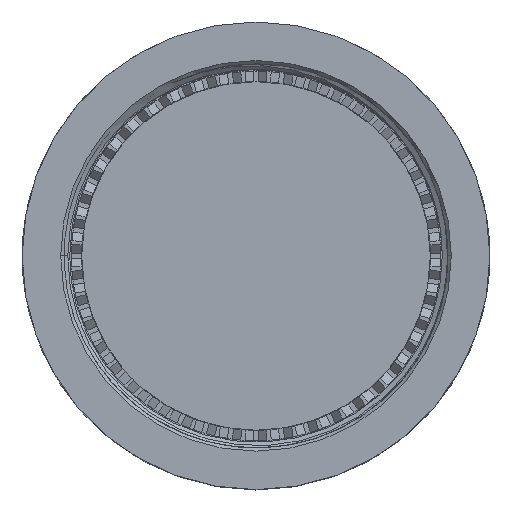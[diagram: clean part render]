
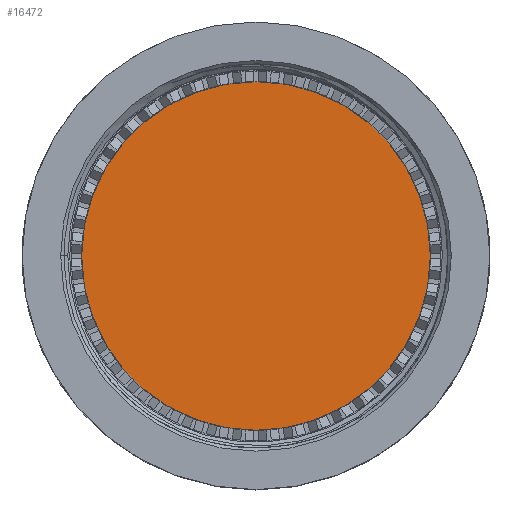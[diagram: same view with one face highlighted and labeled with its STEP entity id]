
A CAD part, top view. The second image highlights one B-rep face of the part: STEP entity #16472.
In plain terms, the highlighted planar face has unit normal (0, 0, 1).
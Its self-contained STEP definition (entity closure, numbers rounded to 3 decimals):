
#1245 = ORIENTED_EDGE ( 'NONE', *, *, #16012, .T. ) ;
#3713 = EDGE_CURVE ( 'NONE', #10050, #7559, #8463, .T. ) ;
#4854 = DIRECTION ( 'NONE',  ( -1., 0., 0. ) ) ;
#5086 = CARTESIAN_POINT ( 'NONE',  ( 16.726, 0., -1.927 ) ) ;
#6254 = CARTESIAN_POINT ( 'NONE',  ( 0., 0., -1.927 ) ) ;
#7556 = CIRCLE ( 'NONE', #15638, 16.726 ) ;
#7559 = VERTEX_POINT ( 'NONE', #5086 ) ;
#7717 = PLANE ( 'NONE',  #8118 ) ;
#8118 = AXIS2_PLACEMENT_3D ( 'NONE', #16997, #9265, #12977 ) ;
#8463 = CIRCLE ( 'NONE', #11816, 16.726 ) ;
#8565 = CARTESIAN_POINT ( 'NONE',  ( 0., 0., -1.927 ) ) ;
#9265 = DIRECTION ( 'NONE',  ( 0., 0., -1. ) ) ;
#10050 = VERTEX_POINT ( 'NONE', #11935 ) ;
#11185 = DIRECTION ( 'NONE',  ( 0., 0., 1. ) ) ;
#11816 = AXIS2_PLACEMENT_3D ( 'NONE', #8565, #11185, #16547 ) ;
#11935 = CARTESIAN_POINT ( 'NONE',  ( -16.726, 0., -1.927 ) ) ;
#12057 = EDGE_LOOP ( 'NONE', ( #1245, #12468 ) ) ;
#12468 = ORIENTED_EDGE ( 'NONE', *, *, #3713, .T. ) ;
#12977 = DIRECTION ( 'NONE',  ( -1., 0., 0. ) ) ;
#15113 = DIRECTION ( 'NONE',  ( 0., 0., 1. ) ) ;
#15638 = AXIS2_PLACEMENT_3D ( 'NONE', #6254, #15113, #4854 ) ;
#16012 = EDGE_CURVE ( 'NONE', #7559, #10050, #7556, .T. ) ;
#16472 = ADVANCED_FACE ( 'NONE', ( #17081 ), #7717, .F. ) ;
#16547 = DIRECTION ( 'NONE',  ( -1., 0., 0. ) ) ;
#16997 = CARTESIAN_POINT ( 'NONE',  ( 0., 0., -1.927 ) ) ;
#17081 = FACE_OUTER_BOUND ( 'NONE', #12057, .T. ) ;
